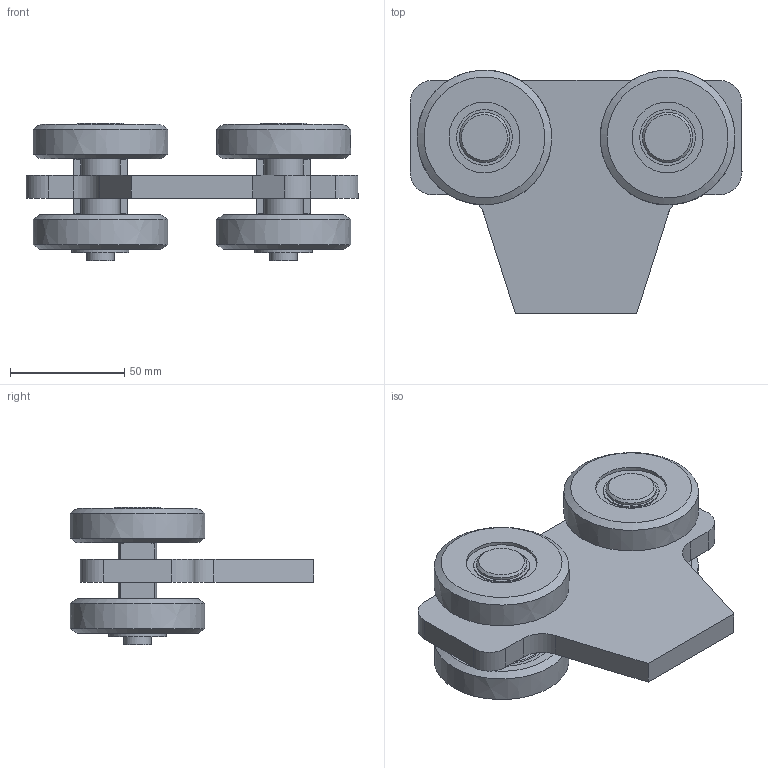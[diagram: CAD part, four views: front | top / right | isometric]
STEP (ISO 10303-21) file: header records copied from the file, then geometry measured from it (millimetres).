
FILE_DESCRIPTION(/* description */ ('Brennteil'),/* implementation_level */ '2;1');
FILE_NAME(/* name */ 'Q:\sge-ma\Produktmanagement-STB\STB\Workspace\stp\010336853.stp',/* time_stamp */ '2016-07-14T12:59:42+02:00',/* author */ ('avschreier'),/* organization */ (''),/* preprocessor_version */ 'ST-DEVELOPER v16.1',/* originating_system */ 'Autodesk Inventor 2016',/* authorisation */ '');
FILE_SCHEMA (('AUTOMOTIVE_DESIGN { 1 0 10303 214 3 1 1 }'));
Length unit declared in the file: millimetre
Products named in the file (8): 000302045; 000302081; 337000287; DIN_625-6203_ZZ_en; 000303241; 000302018; DIN_1440-12_en; 010336853
Assembly tree (19 placements, depth 3):
  010336853
    000302045
    000302081  x8
    000303241  x4
      337000287
      DIN_625-6203_ZZ_en
    000302018  x2
    DIN_1440-12_en  x2
Bounding box: 145 x 106.42 x 60 mm (x, y, z)
Volume: 253290.3 mm3; surface area: 105135.2 mm2
Topology: 21 solids, 25 shells, 416 faces, 1160 edges, 766 vertices
Faces by surface type: plane 202, cylinder 92, torus 72, sphere 28, cone 18, bspline 4
Full cylindrical faces by diameter (mm): 12 x4, 16.9 x2, 17 x4, 22 x2, 24.36 x16, 25 x2, 31 x4, 32.64 x16, 40 x8
Entity records: 4345 total; most frequent: CARTESIAN_POINT 1372, DIRECTION 592, ORIENTED_EDGE 534, EDGE_CURVE 267, AXIS2_PLACEMENT_3D 240, VERTEX_POINT 192, EDGE_LOOP 169, ADVANCED_FACE 116
